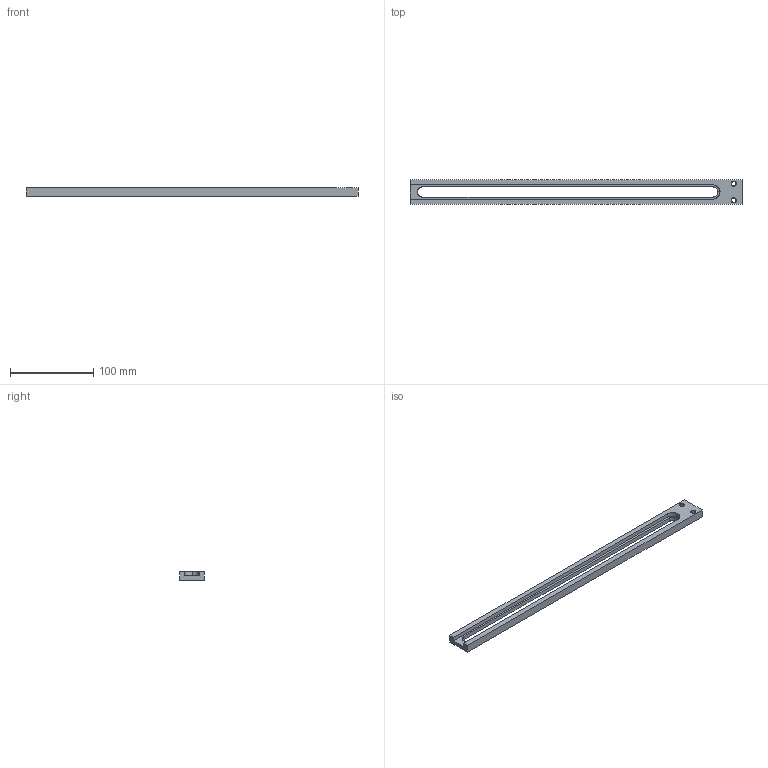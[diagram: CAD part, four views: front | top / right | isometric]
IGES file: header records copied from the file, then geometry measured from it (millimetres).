
Start section: SolidWorks IGES file using analytic representation for surfaces
Global section: file name: C:\Documents and Settings\CAD53\デスクトップ\追加の３Dデータ\縦バー\054089.IGS; native system: SolidWorks 2006 by SolidWorks Corporation; preprocessor: SolidWorks 2006 by SolidWorks Corporation; author: CAD53; date: 071031.133408; units: millimetre
Bounding box: 400 x 30 x 10 mm (x, y, z)
Surface area: 31434.9 mm2 (no closed solid volume)
Topology: 0 solids, 0 shells, 28 faces, 366 edges, 366 vertices
Faces by surface type: revolution 17, bspline 11
